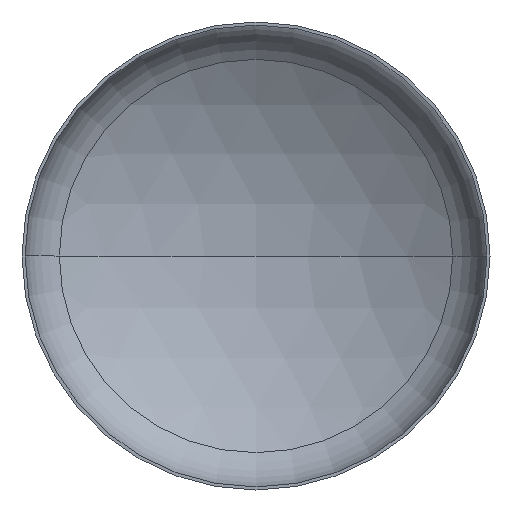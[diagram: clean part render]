
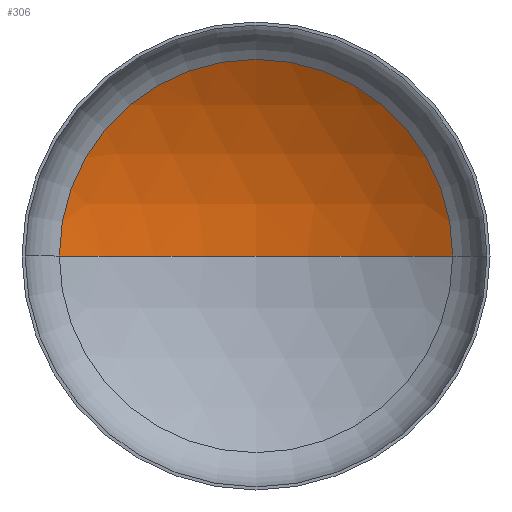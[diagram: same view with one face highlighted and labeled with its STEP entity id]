
A CAD part, front view. The second image highlights one B-rep face of the part: STEP entity #306.
In plain terms, the highlighted spherical face has radius 6000 mm.
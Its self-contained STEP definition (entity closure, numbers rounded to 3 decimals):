
#10 = EDGE_CURVE ( 'NONE', #188, #215, #330, .T. ) ;
#19 = ORIENTED_EDGE ( 'NONE', *, *, #10, .T. ) ;
#30 = CARTESIAN_POINT ( 'NONE',  ( 0., -3972.742, 0. ) ) ;
#32 = EDGE_CURVE ( 'NONE', #215, #365, #155, .T. ) ;
#34 = DIRECTION ( 'NONE',  ( 0., 0., -1. ) ) ;
#59 = DIRECTION ( 'NONE',  ( 0., -1., 0. ) ) ;
#63 = ORIENTED_EDGE ( 'NONE', *, *, #401, .F. ) ;
#76 = AXIS2_PLACEMENT_3D ( 'NONE', #390, #96, #231 ) ;
#85 = ORIENTED_EDGE ( 'NONE', *, *, #32, .T. ) ;
#96 = DIRECTION ( 'NONE',  ( 0., 0., -1. ) ) ;
#120 = CARTESIAN_POINT ( 'NONE',  ( 3151.703, 1132.821, 0. ) ) ;
#135 = CARTESIAN_POINT ( 'NONE',  ( -3151.703, 1132.821, 0. ) ) ;
#155 = CIRCLE ( 'NONE', #391, 3151.703 ) ;
#163 = CARTESIAN_POINT ( 'NONE',  ( 0., 2027.258, 0. ) ) ;
#168 = CARTESIAN_POINT ( 'NONE',  ( 0., -3972.742, 0. ) ) ;
#188 = VERTEX_POINT ( 'NONE', #163 ) ;
#203 = DIRECTION ( 'NONE',  ( 1., 0., 0. ) ) ;
#215 = VERTEX_POINT ( 'NONE', #120 ) ;
#226 = AXIS2_PLACEMENT_3D ( 'NONE', #168, #393, #203 ) ;
#228 = CIRCLE ( 'NONE', #226, 6000. ) ;
#231 = DIRECTION ( 'NONE',  ( -1., 0., 0. ) ) ;
#256 = CARTESIAN_POINT ( 'NONE',  ( 0., 1132.821, 0. ) ) ;
#261 = FACE_OUTER_BOUND ( 'NONE', #309, .T. ) ;
#287 = DIRECTION ( 'NONE',  ( 1., 0., 0. ) ) ;
#306 = ADVANCED_FACE ( 'NONE', ( #261 ), #342, .F. ) ;
#309 = EDGE_LOOP ( 'NONE', ( #63, #19, #85 ) ) ;
#330 = CIRCLE ( 'NONE', #371, 6000. ) ;
#342 = SPHERICAL_SURFACE ( 'NONE', #76, 6000. ) ;
#349 = DIRECTION ( 'NONE',  ( -1., 0., 0. ) ) ;
#365 = VERTEX_POINT ( 'NONE', #135 ) ;
#371 = AXIS2_PLACEMENT_3D ( 'NONE', #30, #34, #349 ) ;
#390 = CARTESIAN_POINT ( 'NONE',  ( 0., -3972.742, 0. ) ) ;
#391 = AXIS2_PLACEMENT_3D ( 'NONE', #256, #59, #287 ) ;
#393 = DIRECTION ( 'NONE',  ( 0., 0., 1. ) ) ;
#401 = EDGE_CURVE ( 'NONE', #188, #365, #228, .T. ) ;
